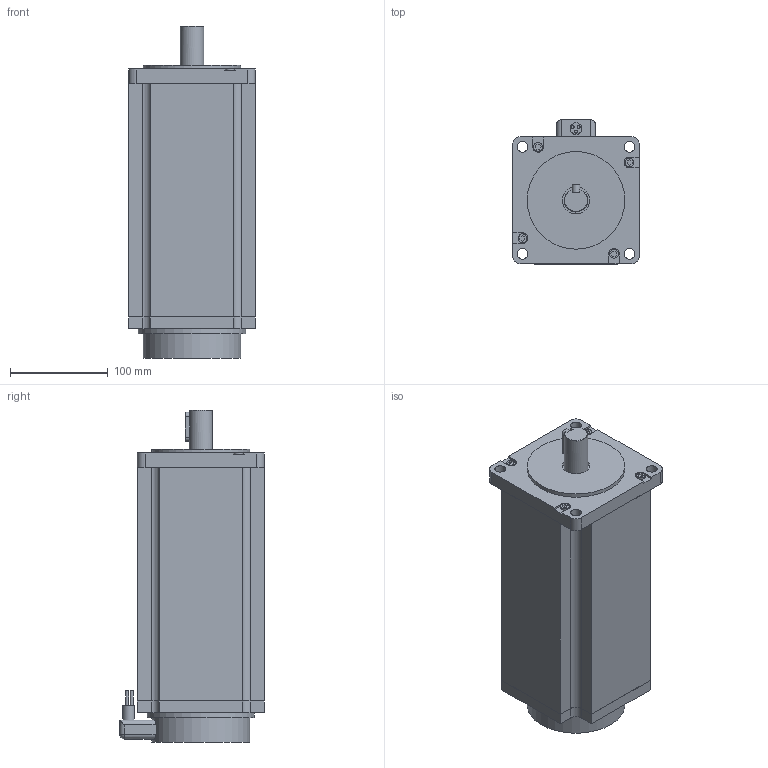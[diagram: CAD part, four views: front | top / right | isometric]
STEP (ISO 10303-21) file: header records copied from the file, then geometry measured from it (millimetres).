
FILE_DESCRIPTION(/* description */ (''),/* implementation_level */ '2;1');
FILE_NAME(/* name */ 'STC-130E68-03296.stp',/* time_stamp */ '2018-08-21T09:03:34+08:00',/* author */ (''),/* organization */ (''),/* preprocessor_version */ 'ST-DEVELOPER v11',/* originating_system */ 'SIEMENS UGS NX 6.0',/* authorisation */ '');
FILE_SCHEMA (('CONFIG_CONTROL_DESIGN'));
Length unit declared in the file: millimetre
Products named in the file (1): STC-130E68-03296
Bounding box: 130 x 148 x 340 mm (x, y, z)
Volume: 4302123.8 mm3; surface area: 190696.8 mm2
Topology: 2 solids, 3 shells, 151 faces, 375 edges, 248 vertices
Faces by surface type: plane 103, cylinder 45, sphere 2, torus 1
Full cylindrical faces by diameter (mm): 3 x3, 9 x4, 11 x4, 12 x1, 24 x1, 28 x1, 100 x2, 110 x1
Entity records: 4473 total; most frequent: CARTESIAN_POINT 825, DIRECTION 730, ORIENTED_EDGE 698, EDGE_CURVE 349, LINE 256, VECTOR 256, VERTEX_POINT 241, AXIS2_PLACEMENT_3D 237
